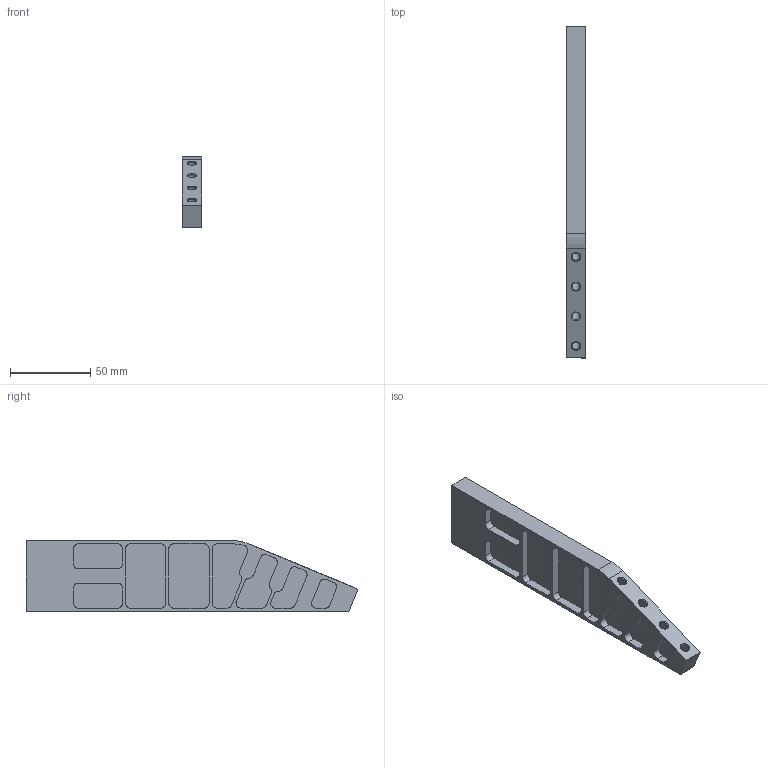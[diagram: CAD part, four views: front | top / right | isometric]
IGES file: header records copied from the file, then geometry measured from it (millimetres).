
Global section: file name: 0393-18-82; native system: VariCAD 2020-1.02; preprocessor: 5.3; author: LVVS3874K00E; organization: Elphe, Inc.; date: 20260812.105858; units: millimetre
Bounding box: 12 x 206.77 x 44 mm (x, y, z)
Surface area: 32587.3 mm2 (no closed solid volume)
Topology: 0 solids, 0 shells, 223 faces, 1156 edges, 1152 vertices
Faces by surface type: revolution 123, bspline 100
